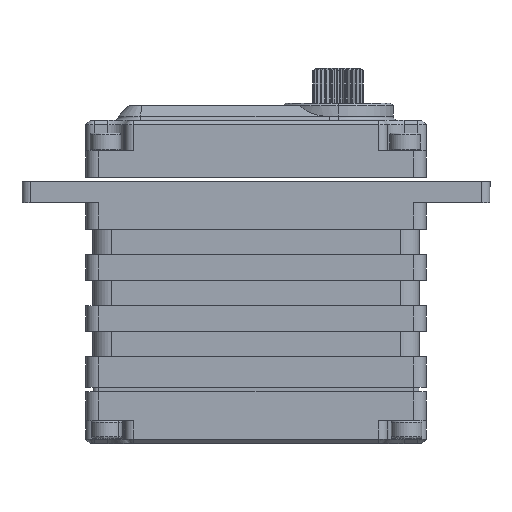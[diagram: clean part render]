
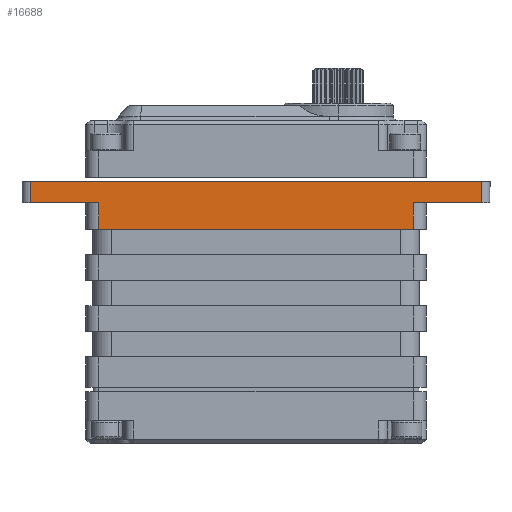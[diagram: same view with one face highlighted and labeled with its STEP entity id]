
A CAD part, front view. The second image highlights one B-rep face of the part: STEP entity #16688.
In plain terms, the highlighted planar face has unit normal (0, -1, 0).
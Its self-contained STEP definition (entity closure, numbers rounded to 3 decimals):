
#232 = VERTEX_POINT ( 'NONE', #8336 ) ;
#509 = ORIENTED_EDGE ( 'NONE', *, *, #14174, .T. ) ;
#617 = VERTEX_POINT ( 'NONE', #11725 ) ;
#917 = AXIS2_PLACEMENT_3D ( 'NONE', #3393, #20822, #22864 ) ;
#1665 = DIRECTION ( 'NONE',  ( 0., 0., -1. ) ) ;
#2514 = EDGE_LOOP ( 'NONE', ( #18503, #11153, #10251, #509, #23992, #10295, #19444, #6701 ) ) ;
#2587 = LINE ( 'NONE', #14993, #16341 ) ;
#3102 = DIRECTION ( 'NONE',  ( 1., 0., 0. ) ) ;
#3393 = CARTESIAN_POINT ( 'NONE',  ( 8.624, 6.889, 73.028 ) ) ;
#3568 = VECTOR ( 'NONE', #15110, 1000. ) ;
#3714 = CARTESIAN_POINT ( 'NONE',  ( -2.026, 6.889, 73.028 ) ) ;
#3914 = DIRECTION ( 'NONE',  ( 0., 0., 1. ) ) ;
#4449 = LINE ( 'NONE', #16541, #14014 ) ;
#6069 = EDGE_CURVE ( 'NONE', #12879, #14168, #4449, .T. ) ;
#6701 = ORIENTED_EDGE ( 'NONE', *, *, #23995, .T. ) ;
#6722 = CARTESIAN_POINT ( 'NONE',  ( 8.624, 6.889, 76.303 ) ) ;
#7207 = VECTOR ( 'NONE', #3914, 1000. ) ;
#7246 = CARTESIAN_POINT ( 'NONE',  ( -39.026, 6.889, 73.028 ) ) ;
#7739 = LINE ( 'NONE', #14764, #3568 ) ;
#8336 = CARTESIAN_POINT ( 'NONE',  ( -2.026, 6.889, 73.203 ) ) ;
#8954 = FACE_OUTER_BOUND ( 'NONE', #2514, .T. ) ;
#10046 = EDGE_CURVE ( 'NONE', #12461, #232, #13741, .T. ) ;
#10251 = ORIENTED_EDGE ( 'NONE', *, *, #14827, .F. ) ;
#10295 = ORIENTED_EDGE ( 'NONE', *, *, #14171, .T. ) ;
#10702 = VERTEX_POINT ( 'NONE', #15748 ) ;
#11153 = ORIENTED_EDGE ( 'NONE', *, *, #16187, .T. ) ;
#11705 = VERTEX_POINT ( 'NONE', #16325 ) ;
#11725 = CARTESIAN_POINT ( 'NONE',  ( -39.026, 6.889, 76.303 ) ) ;
#12461 = VERTEX_POINT ( 'NONE', #24479 ) ;
#12525 = LINE ( 'NONE', #7246, #15818 ) ;
#12617 = VERTEX_POINT ( 'NONE', #21251 ) ;
#12879 = VERTEX_POINT ( 'NONE', #18107 ) ;
#13177 = LINE ( 'NONE', #17186, #7207 ) ;
#13344 = CARTESIAN_POINT ( 'NONE',  ( 8.624, 6.889, 73.203 ) ) ;
#13612 = VECTOR ( 'NONE', #20209, 1000. ) ;
#13741 = LINE ( 'NONE', #13344, #21806 ) ;
#14014 = VECTOR ( 'NONE', #3102, 1000. ) ;
#14168 = VERTEX_POINT ( 'NONE', #14936 ) ;
#14171 = EDGE_CURVE ( 'NONE', #617, #12461, #12525, .T. ) ;
#14174 = EDGE_CURVE ( 'NONE', #11705, #12617, #7739, .T. ) ;
#14225 = LINE ( 'NONE', #6722, #13612 ) ;
#14764 = CARTESIAN_POINT ( 'NONE',  ( -47.026, 6.889, 73.028 ) ) ;
#14791 = LINE ( 'NONE', #3714, #19550 ) ;
#14827 = EDGE_CURVE ( 'NONE', #11705, #10702, #2587, .T. ) ;
#14936 = CARTESIAN_POINT ( 'NONE',  ( 5.974, 6.889, 76.303 ) ) ;
#14993 = CARTESIAN_POINT ( 'NONE',  ( 9.724, 6.889, 78.803 ) ) ;
#15110 = DIRECTION ( 'NONE',  ( 0., 0., -1. ) ) ;
#15748 = CARTESIAN_POINT ( 'NONE',  ( 5.974, 6.889, 78.803 ) ) ;
#15818 = VECTOR ( 'NONE', #1665, 1000. ) ;
#16187 = EDGE_CURVE ( 'NONE', #14168, #10702, #13177, .T. ) ;
#16325 = CARTESIAN_POINT ( 'NONE',  ( -47.026, 6.889, 78.803 ) ) ;
#16341 = VECTOR ( 'NONE', #24753, 1000. ) ;
#16541 = CARTESIAN_POINT ( 'NONE',  ( 8.624, 6.889, 76.303 ) ) ;
#16675 = PLANE ( 'NONE',  #917 ) ;
#16688 = ADVANCED_FACE ( 'NONE', ( #8954 ), #16675, .T. ) ;
#17186 = CARTESIAN_POINT ( 'NONE',  ( 5.974, 6.889, 73.028 ) ) ;
#18107 = CARTESIAN_POINT ( 'NONE',  ( -2.026, 6.889, 76.303 ) ) ;
#18503 = ORIENTED_EDGE ( 'NONE', *, *, #6069, .T. ) ;
#18807 = DIRECTION ( 'NONE',  ( 0., 0., 1. ) ) ;
#19444 = ORIENTED_EDGE ( 'NONE', *, *, #10046, .T. ) ;
#19550 = VECTOR ( 'NONE', #18807, 1000. ) ;
#20209 = DIRECTION ( 'NONE',  ( 1., 0., 0. ) ) ;
#20822 = DIRECTION ( 'NONE',  ( 0., -1., 0. ) ) ;
#21251 = CARTESIAN_POINT ( 'NONE',  ( -47.026, 6.889, 76.303 ) ) ;
#21806 = VECTOR ( 'NONE', #22715, 1000. ) ;
#22715 = DIRECTION ( 'NONE',  ( 1., 0., 0. ) ) ;
#22864 = DIRECTION ( 'NONE',  ( -1., 0., 0. ) ) ;
#23992 = ORIENTED_EDGE ( 'NONE', *, *, #24174, .T. ) ;
#23995 = EDGE_CURVE ( 'NONE', #232, #12879, #14791, .T. ) ;
#24174 = EDGE_CURVE ( 'NONE', #12617, #617, #14225, .T. ) ;
#24479 = CARTESIAN_POINT ( 'NONE',  ( -39.026, 6.889, 73.203 ) ) ;
#24753 = DIRECTION ( 'NONE',  ( 1., 0., 0. ) ) ;
